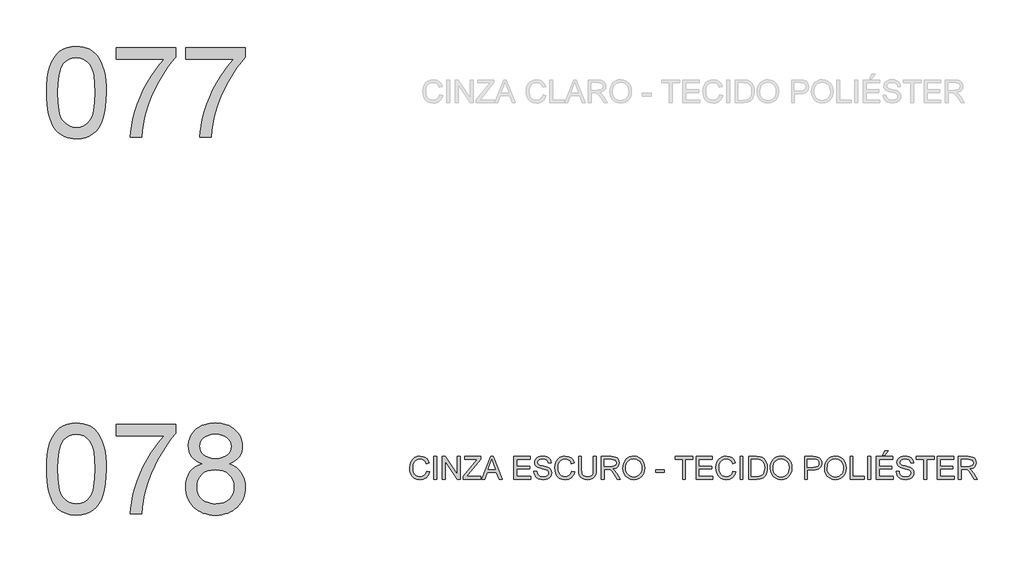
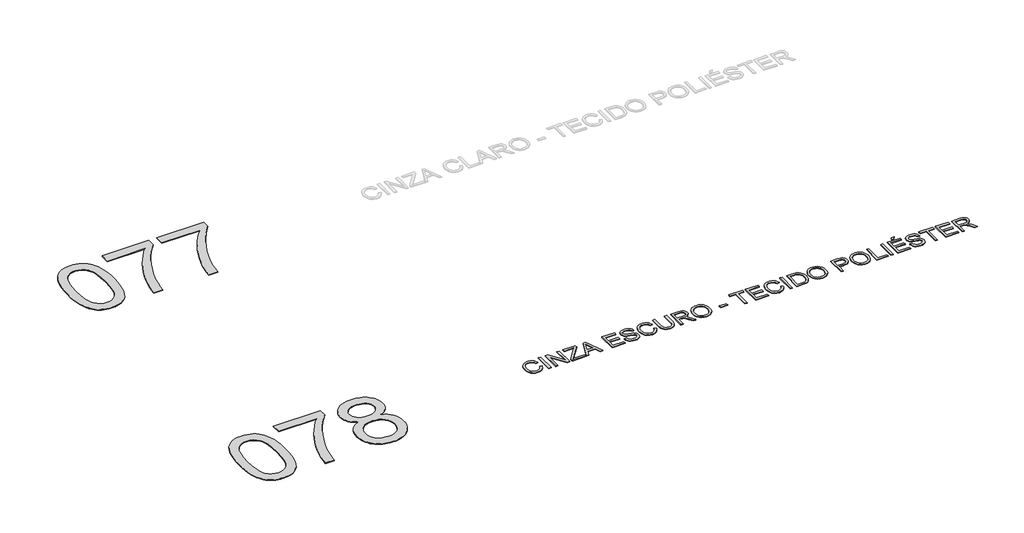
# One storey, part 5 of 39: 3 proxies.
"""IFC4 building model written with IfcOpenShell, lengths in millimetres."""

from ifc_helpers import new_model, si_unit, origin, origin_with_axes, place, context, project, spatial, polyline, outline, extrude, element, save

model = new_model("IFC4")

# Units and contexts
model_context = context("Model", 3, world=origin())
ifc_project = project(units=[si_unit("LENGTHUNIT", "METRE", prefix="MILLI")], contexts=[model_context])

# Site, building, storey
site = spatial("IfcSite", under=ifc_project)
building = spatial("IfcBuilding", under=site)
storey = spatial("IfcBuildingStorey", under=building, Name="Marelli - Linha PROFIT - Planta Baixa", Elevation=0.0)

# Proxies
placement = place(None, origin())
element("IfcBuildingElementProxy", 1, Name="1200mm Arial", ObjectType="1200mm Arial", at=placement, inside=storey, context=model_context, shape_type="SweptSolid", body=[
    extrude(outline(polyline([(-25181.1313792, -129395.792664), (-25178.3630672, -129294.4319773), (-25170.0581311, -129202.8385576), (-25156.2165711, -129121.0124048), (-25136.838387, -129048.953519), (-25112.0063523, -128986.073289), (-25081.8032405, -128931.7831035), (-25046.2290516, -128886.0829627), (-25005.2837855, -128848.9728664), (-24958.8294866, -128820.2596767), (-24906.728199, -128799.7502555), (-24848.9799228, -128787.4446027), (-24785.584658, -128783.3427185), (-24737.9439396, -128785.7707396), (-24692.7312424, -128793.0548031), (-24649.9465664, -128805.194909), (-24609.5899115, -128822.1910572), (-24572.6361651, -128843.7581391), (-24540.0602144, -128869.6110463), (-24511.8620595, -128899.7497788), (-24488.0417003, -128934.1743365), (-24467.4035204, -128972.7467637), (-24448.7519032, -129015.3291046), (-24417.4083572, -129112.5235278), (-24405.4337983, -129169.6831928), (-24396.8805419, -129235.9479371), (-24391.7485881, -129311.3177609), (-24390.0379368, -129395.792664), (-24392.7786576, -129496.5095573), (-24401.0008202, -129587.6431245), (-24414.7044246, -129669.1933658), (-24433.8894706, -129741.1602811), (-24458.5283672, -129804.0681023), (-24488.5935233, -129858.4410612), (-24524.0849388, -129904.2791578), (-24565.0026137, -129941.5823921), (-24611.5120949, -129970.4887199), (-24663.7789294, -129991.1360968), (-24721.8031171, -130003.524523), (-24785.584658, -130007.6539984), (-24828.2589694, -130005.8605737), (-24868.5788361, -130000.4802995), (-24906.544258, -129991.5131759), (-24942.1552351, -129978.9592028), (-24975.4117675, -129962.8183803), (-25006.3138551, -129943.0907083), (-25034.8614979, -129919.7761868), (-25061.054696, -129892.8748159), (-25089.1976686, -129850.2786794), (-25113.5882449, -129802.0999336), (-25134.2264248, -129748.3385785), (-25151.1122084, -129688.9946142), (-25164.2455956, -129624.0680406), (-25173.6265865, -129553.5588577), (-25179.255181, -129477.4670655), (-25181.1313792, -129395.792664)]), holes=[polyline([(-25030.446914, -129395.4983584), (-25026.03233, -129526.4919399), (-25012.7885782, -129632.5247279), (-25002.8557643, -129676.1808245), (-24990.7156585, -129713.5967226), (-24976.3682607, -129744.7724225), (-24959.8135709, -129769.7079239), (-24922.4367602, -129807.884878), (-24880.9396711, -129835.1541309), (-24835.3223037, -129851.5156826), (-24785.584658, -129856.9695332), (-24735.8470122, -129851.4972885), (-24690.2296448, -129835.0805545), (-24648.7325558, -129807.7193311), (-24611.3557451, -129769.4136183), (-24594.8010553, -129744.418336), (-24580.4536575, -129713.2104465), (-24568.3135516, -129675.7899498), (-24558.3807378, -129632.1568459), (-24545.1369859, -129526.2528166), (-24540.722402, -129395.4983584), (-24544.9898331, -129267.9720648), (-24557.7921266, -129163.8062779), (-24567.3938467, -129120.4835744), (-24579.1292823, -129083.0009976), (-24592.9984335, -129051.3585475), (-24609.0013003, -129025.5562241), (-24645.7527116, -128985.5122689), (-24687.7280473, -128956.9094438), (-24734.9273073, -128939.7477487), (-24787.3504916, -128934.0271837), (-24836.8306199, -128939.067167), (-24881.6754351, -128954.187117), (-24921.8849372, -128979.3870337), (-24957.4591261, -129014.666917), (-24974.5656389, -129043.2145599), (-24989.3912833, -129077.2068562), (-25001.9360594, -129116.6438061), (-25012.199967, -129161.5254095), (-25025.8851772, -129267.6225769), (-25030.446914, -129395.4983584)])]), origin_with_axes(), (0.0, 0.0, 1.0), 10.0),
    extrude(outline(polyline([(-24258.1890297, -128952.8627418), (-24258.1890297, -128802.1782766), (-23467.0955873, -128802.1782766), (-23467.0955873, -128924.0207934), (-23523.6114588, -128990.5246611), (-23579.8514188, -129066.7222194), (-23635.8154673, -129152.6134682), (-23691.5036043, -129248.1984076), (-23743.8991975, -129349.3383651), (-23789.9856144, -129451.8946683), (-23829.7628552, -129555.8673172), (-23863.2309197, -129661.2563118), (-23883.1701238, -129737.7941609), (-23899.1362024, -129817.9004653), (-23911.1291555, -129901.5752251), (-23919.1489829, -129988.8184403), (-24069.8334482, -129988.8184403), (-24065.0969675, -129914.8189769), (-24053.5362758, -129833.4986619), (-24035.1513731, -129744.8574952), (-24009.9422594, -129648.8954767), (-23978.2032402, -129550.1651463), (-23940.2286213, -129453.2190435), (-23896.0184025, -129358.0571684), (-23845.5725839, -129264.679521), (-23791.1628368, -129175.8268221), (-23735.0608326, -129094.2397926), (-23677.2665711, -129019.9184325), (-23617.7800525, -128952.8627418), (-24258.1890297, -128952.8627418)])), origin_with_axes(), (0.0, 0.0, 1.0), 10.0),
    extrude(outline(polyline([(-23335.2466802, -128952.8627418), (-23335.2466802, -128802.1782766), (-22544.1532378, -128802.1782766), (-22544.1532378, -128924.0207934), (-22600.6691093, -128990.5246611), (-22656.9090693, -129066.7222194), (-22712.8731178, -129152.6134682), (-22768.5612548, -129248.1984076), (-22820.956848, -129349.3383651), (-22867.0432649, -129451.8946683), (-22906.8205057, -129555.8673172), (-22940.2885702, -129661.2563118), (-22960.2277743, -129737.7941609), (-22976.1938529, -129817.9004653), (-22988.186806, -129901.5752251), (-22996.2066335, -129988.8184403), (-23146.8910987, -129988.8184403), (-23142.154618, -129914.8189769), (-23130.5939263, -129833.4986619), (-23112.2090236, -129744.8574952), (-23086.9999099, -129648.8954767), (-23055.2608907, -129550.1651463), (-23017.2862718, -129453.2190435), (-22973.076053, -129358.0571684), (-22922.6302344, -129264.679521), (-22868.2204873, -129175.8268221), (-22812.1184831, -129094.2397926), (-22754.3242216, -129019.9184325), (-22694.837703, -128952.8627418), (-23335.2466802, -128952.8627418)])), origin_with_axes(), (0.0, 0.0, 1.0), 10.0),
])
element("IfcBuildingElementProxy", 2, Name="1200mm Arial", ObjectType="1200mm Arial", at=placement, inside=storey, context=model_context, shape_type="SweptSolid", body=[
    extrude(outline(polyline([(-25181.1313792, -134395.792664), (-25178.3630672, -134294.4319773), (-25170.0581311, -134202.8385576), (-25156.2165711, -134121.0124048), (-25136.838387, -134048.953519), (-25112.0063523, -133986.073289), (-25081.8032405, -133931.7831035), (-25046.2290516, -133886.0829627), (-25005.2837855, -133848.9728664), (-24958.8294866, -133820.2596767), (-24906.728199, -133799.7502555), (-24848.9799228, -133787.4446027), (-24785.584658, -133783.3427185), (-24737.9439396, -133785.7707396), (-24692.7312424, -133793.0548031), (-24649.9465664, -133805.194909), (-24609.5899115, -133822.1910572), (-24572.6361651, -133843.7581391), (-24540.0602144, -133869.6110463), (-24511.8620595, -133899.7497788), (-24488.0417003, -133934.1743365), (-24467.4035204, -133972.7467637), (-24448.7519032, -134015.3291046), (-24417.4083572, -134112.5235278), (-24405.4337983, -134169.6831928), (-24396.8805419, -134235.9479371), (-24391.7485881, -134311.3177609), (-24390.0379368, -134395.792664), (-24392.7786576, -134496.5095573), (-24401.0008202, -134587.6431245), (-24414.7044246, -134669.1933658), (-24433.8894706, -134741.1602811), (-24458.5283672, -134804.0681023), (-24488.5935233, -134858.4410612), (-24524.0849388, -134904.2791578), (-24565.0026137, -134941.5823921), (-24611.5120949, -134970.4887199), (-24663.7789294, -134991.1360968), (-24721.8031171, -135003.524523), (-24785.584658, -135007.6539984), (-24828.2589694, -135005.8605737), (-24868.5788361, -135000.4802995), (-24906.544258, -134991.5131759), (-24942.1552351, -134978.9592028), (-24975.4117675, -134962.8183803), (-25006.3138551, -134943.0907083), (-25034.8614979, -134919.7761868), (-25061.054696, -134892.8748159), (-25089.1976686, -134850.2786794), (-25113.5882449, -134802.0999336), (-25134.2264248, -134748.3385785), (-25151.1122084, -134688.9946142), (-25164.2455956, -134624.0680406), (-25173.6265865, -134553.5588577), (-25179.255181, -134477.4670655), (-25181.1313792, -134395.792664)]), holes=[polyline([(-25030.446914, -134395.4983584), (-25026.03233, -134526.4919399), (-25012.7885782, -134632.5247279), (-25002.8557643, -134676.1808245), (-24990.7156585, -134713.5967226), (-24976.3682607, -134744.7724225), (-24959.8135709, -134769.7079239), (-24922.4367602, -134807.884878), (-24880.9396711, -134835.1541309), (-24835.3223037, -134851.5156826), (-24785.584658, -134856.9695332), (-24735.8470122, -134851.4972885), (-24690.2296448, -134835.0805545), (-24648.7325558, -134807.7193311), (-24611.3557451, -134769.4136183), (-24594.8010553, -134744.418336), (-24580.4536575, -134713.2104465), (-24568.3135516, -134675.7899498), (-24558.3807378, -134632.1568459), (-24545.1369859, -134526.2528166), (-24540.722402, -134395.4983584), (-24544.9898331, -134267.9720648), (-24557.7921266, -134163.8062779), (-24567.3938467, -134120.4835744), (-24579.1292823, -134083.0009976), (-24592.9984335, -134051.3585475), (-24609.0013003, -134025.5562241), (-24645.7527116, -133985.5122689), (-24687.7280473, -133956.9094438), (-24734.9273073, -133939.7477487), (-24787.3504916, -133934.0271837), (-24836.8306199, -133939.067167), (-24881.6754351, -133954.187117), (-24921.8849372, -133979.3870337), (-24957.4591261, -134014.666917), (-24974.5656389, -134043.2145599), (-24989.3912833, -134077.2068562), (-25001.9360594, -134116.6438061), (-25012.199967, -134161.5254095), (-25025.8851772, -134267.6225769), (-25030.446914, -134395.4983584)])]), origin_with_axes(), (0.0, 0.0, 1.0), 10.0),
    extrude(outline(polyline([(-24258.1890297, -133952.8627418), (-24258.1890297, -133802.1782766), (-23467.0955873, -133802.1782766), (-23467.0955873, -133924.0207934), (-23523.6114588, -133990.5246611), (-23579.8514188, -134066.7222194), (-23635.8154673, -134152.6134682), (-23691.5036043, -134248.1984076), (-23743.8991975, -134349.3383651), (-23789.9856144, -134451.8946683), (-23829.7628552, -134555.8673172), (-23863.2309197, -134661.2563118), (-23883.1701238, -134737.7941609), (-23899.1362024, -134817.9004653), (-23911.1291555, -134901.5752251), (-23919.1489829, -134988.8184403), (-24069.8334482, -134988.8184403), (-24065.0969675, -134914.8189769), (-24053.5362758, -134833.4986619), (-24035.1513731, -134744.8574952), (-24009.9422594, -134648.8954767), (-23978.2032402, -134550.1651463), (-23940.2286213, -134453.2190435), (-23896.0184025, -134358.0571684), (-23845.5725839, -134264.679521), (-23791.1628368, -134175.8268221), (-23735.0608326, -134094.2397926), (-23677.2665711, -134019.9184325), (-23617.7800525, -133952.8627418), (-24258.1890297, -133952.8627418)])), origin_with_axes(), (0.0, 0.0, 1.0), 10.0),
    extrude(outline(polyline([(-23115.6947055, -134324.8650154), (-23159.0404016, -134306.7652212), (-23196.371227, -134285.1337599), (-23227.6871819, -134259.9706314), (-23252.9882661, -134231.2758358), (-23272.4952089, -134199.3252845), (-23286.4287394, -134164.3948891), (-23294.7888578, -134126.4846495), (-23297.5755639, -134085.5945657), (-23291.505511, -134024.1398784), (-23283.9179448, -133995.3301197), (-23273.2953522, -133967.7987509), (-23259.6377331, -133941.545772), (-23242.9450876, -133916.571183), (-23200.4547172, -133870.4571749), (-23175.1674285, -133850.0397242), (-23147.865986, -133832.3446002), (-23118.5503895, -133817.371803), (-23087.2206391, -133805.1213326), (-23018.5186765, -133788.787372), (-22941.7600982, -133783.3427185), (-22864.6336379, -133788.9161307), (-22795.4166405, -133805.6363674), (-22763.7741904, -133818.1765449), (-22734.109106, -133833.5034285), (-22706.4213873, -133851.6170182), (-22680.7110344, -133872.5173141), (-22637.4481118, -133919.5326331), (-22620.4519636, -133944.8613085), (-22606.5460242, -133971.4039944), (-22595.7302935, -133999.1606909), (-22588.0047716, -134028.1313981), (-22583.3694585, -134058.3161158), (-22581.8243541, -134089.7148441), (-22584.574272, -134129.160991), (-22592.8240257, -134165.9767817), (-22606.5736153, -134200.1622161), (-22625.8230407, -134231.7172942), (-22650.6642724, -134260.2189518), (-22681.189281, -134285.2441245), (-22717.3980664, -134306.7928124), (-22759.2906286, -134324.8650154), (-22709.764515, -134345.9354566), (-22666.5475776, -134372.6528865), (-22629.6398164, -134405.0173051), (-22599.0412315, -134443.0287122), (-22575.0277342, -134485.8409794), (-22557.8752362, -134532.607978), (-22547.5837374, -134583.3297081), (-22544.1532378, -134638.0061697), (-22545.854692, -134676.3670647), (-22550.9590547, -134713.1644613), (-22559.4663258, -134748.3983594), (-22571.3765054, -134782.068759), (-22586.6895935, -134814.1756601), (-22605.40559, -134844.7190628), (-22627.5244949, -134873.6989669), (-22653.0463083, -134901.1153726), (-22681.3456308, -134926.085363), (-22711.797063, -134947.7260214), (-22744.4006048, -134966.0373477), (-22779.1562563, -134981.019342), (-22816.0640175, -134992.6720042), (-22855.1238883, -135000.9953343), (-22896.3358688, -135005.9893324), (-22939.699959, -135007.6539984), (-22983.0640492, -135005.9824346), (-23024.2760297, -135000.9677432), (-23063.3359005, -134992.6099241), (-23100.2436617, -134980.9089774), (-23134.9993132, -134965.864903), (-23167.602855, -134947.4777011), (-23198.0542872, -134925.7473715), (-23226.3536096, -134900.6739142), (-23251.875423, -134873.1034579), (-23273.994328, -134843.8821312), (-23292.7103245, -134813.009934), (-23308.0234126, -134780.4868664), (-23319.9335922, -134746.3129283), (-23328.4408633, -134710.4881198), (-23333.545226, -134673.0124408), (-23335.2466802, -134633.8858913), (-23331.6782249, -134576.7170293), (-23320.9728588, -134524.4042096), (-23303.130582, -134476.9474322), (-23278.1513946, -134434.3466971), (-23246.5871194, -134397.3745566), (-23208.9895795, -134366.8035628), (-23165.3587748, -134342.6337157), (-23115.6947055, -134324.8650154)]), holes=[polyline([(-23146.8910987, -134090.0091496), (-23143.5525696, -134124.553269), (-23133.5369822, -134155.7864504), (-23116.8443367, -134183.7086938), (-23093.474633, -134208.3199993), (-23063.7221766, -134228.4063562), (-23027.8812732, -134242.753754), (-22985.9519228, -134251.3621927), (-22937.9341254, -134254.2316723), (-22891.1027474, -134251.3805868), (-22850.083905, -134242.8273304), (-22814.877598, -134228.5719031), (-22785.4838266, -134208.6143049), (-22762.3072609, -134184.5180342), (-22745.7525711, -134157.8465896), (-22735.8197573, -134128.5999709), (-22732.5088193, -134096.7781784), (-22735.9301219, -134063.714784), (-22746.1940295, -134033.3921106), (-22763.3005423, -134005.810158), (-22787.2496602, -133980.9689263), (-22817.3056192, -133960.4319139), (-22852.7326553, -133945.7626193), (-22893.5307686, -133936.9610426), (-22939.699959, -133934.0271837), (-22986.2278343, -133936.8966633), (-23027.2190856, -133945.5051019), (-23062.6737129, -133959.8524998), (-23092.5917162, -133979.9388567), (-23116.347696, -134004.0351274), (-23133.3162531, -134030.4122664), (-23143.4973873, -134059.0702739), (-23146.8910987, -134090.0091496)]), polyline([(-23184.562215, -134628.5883906), (-23182.9895195, -134657.6418712), (-23178.2714329, -134686.2354992), (-23159.3990865, -134742.0431979), (-23144.3986982, -134767.9328933), (-23124.5606616, -134790.7139859), (-23099.8849767, -134810.3864756), (-23070.3716437, -134826.9503624), (-23038.1819691, -134840.0837496), (-23005.4772597, -134849.4647405), (-22972.2575156, -134855.093335), (-22938.5227366, -134856.9695332), (-22884.0394131, -134853.0239988), (-22835.9572364, -134841.1873956), (-22794.2762063, -134821.4597236), (-22758.996323, -134793.8409828), (-22730.9269267, -134760.133795), (-22710.877358, -134722.140782), (-22698.8476167, -134679.8619437), (-22694.837703, -134633.2972801), (-22698.9763754, -134585.9876555), (-22711.3923928, -134542.9454621), (-22732.085755, -134504.1706998), (-22761.0564621, -134469.6633687), (-22797.2928387, -134441.336455), (-22839.7832091, -134421.1029453), (-22888.5275735, -134408.9628395), (-22943.5259317, -134404.9161375), (-22997.2091119, -134408.9076572), (-23044.6566922, -134420.8822161), (-23085.8686727, -134440.8398143), (-23120.8450534, -134468.7804519), (-23148.7213116, -134502.7175659), (-23168.6329246, -134540.6645937), (-23180.5798924, -134582.6215353), (-23184.562215, -134628.5883906)])]), origin_with_axes(), (0.0, 0.0, 1.0), 10.0),
])
element("IfcBuildingElementProxy", 3, Name="300mm Arial", ObjectType="300mm Arial", at=placement, inside=storey, context=model_context, shape_type="SweptSolid", body=[
    extrude(outline(polyline([(-20136.8172734, -134423.4390831), (-20099.1461571, -134433.1511677), (-20106.600366, -134456.5783531), (-20116.5285814, -134477.0486868), (-20128.9308031, -134494.5621691), (-20143.8070313, -134509.1187997), (-20160.8215736, -134520.5622291), (-20179.6387376, -134528.7361071), (-20200.2585235, -134533.640434), (-20222.6809311, -134535.2752096), (-20266.3761151, -134530.3271968), (-20301.0765843, -134515.4831583), (-20327.6744525, -134491.2581289), (-20347.0618337, -134458.1671434), (-20358.8984368, -134419.2636224), (-20362.8439712, -134377.6009865), (-20358.3834021, -134333.6574821), (-20345.0016945, -134295.7104543), (-20323.3978243, -134264.9647166), (-20294.2707673, -134242.6250824), (-20259.726648, -134229.0226457), (-20221.8715907, -134224.4885001), (-20180.5676397, -134230.3562179), (-20162.5989035, -134237.6908652), (-20146.4189935, -134247.9593714), (-20132.2946241, -134260.8904235), (-20120.4925099, -134276.2127086), (-20103.8550466, -134314.0309777), (-20141.5261629, -134323.0072984), (-20154.5859738, -134295.5357104), (-20172.4282505, -134276.6909552), (-20195.2737224, -134265.7924511), (-20223.3431187, -134262.1596164), (-20255.6983401, -134266.1879242), (-20282.2778143, -134278.2728478), (-20302.4469447, -134297.1451941), (-20315.5711349, -134321.5357704), (-20322.7724249, -134349.1085259), (-20325.1728549, -134377.5274101), (-20322.3309665, -134412.3290468), (-20313.8053013, -134442.421794), (-20299.2739625, -134466.6560205), (-20278.4150534, -134483.8820949), (-20253.4082747, -134494.1735937), (-20226.4333274, -134497.6040933), (-20194.9886139, -134492.931992), (-20168.7862188, -134478.9156879), (-20149.0033645, -134455.702334), (-20136.8172734, -134423.4390831)])), origin_with_axes(), (0.0, 0.0, 1.0), 10.0),
    extrude(outline(polyline([(-20042.6394826, -134530.5663201), (-20042.6394826, -134229.1973896), (-20004.9683663, -134229.1973896), (-20004.9683663, -134530.5663201), (-20042.6394826, -134530.5663201)])), origin_with_axes(), (0.0, 0.0, 1.0), 10.0),
    extrude(outline(polyline([(-19929.6261337, -134530.5663201), (-19929.6261337, -134229.1973896), (-19889.3062671, -134229.1973896), (-19731.8527731, -134467.9528045), (-19731.8527731, -134229.1973896), (-19694.1816568, -134229.1973896), (-19694.1816568, -134530.5663201), (-19734.5015235, -134530.5663201), (-19891.9550174, -134291.7373288), (-19891.9550174, -134530.5663201), (-19929.6261337, -134530.5663201)])), origin_with_axes(), (0.0, 0.0, 1.0), 10.0),
    extrude(outline(polyline([(-19651.801651, -134530.5663201), (-19651.801651, -134491.4972522), (-19497.659095, -134302.7737887), (-19468.3756882, -134266.8685059), (-19632.9660928, -134266.8685059), (-19632.9660928, -134229.1973896), (-19421.0660636, -134229.1973896), (-19421.0660636, -134266.8685059), (-19589.7767466, -134473.397458), (-19605.6692488, -134492.8952038), (-19416.3571741, -134492.8952038), (-19416.3571741, -134530.5663201), (-19651.801651, -134530.5663201)])), origin_with_axes(), (0.0, 0.0, 1.0), 10.0),
    extrude(outline(polyline([(-19409.0731105, -134530.5663201), (-19288.7756981, -134229.1973896), (-19256.6963881, -134229.1973896), (-19136.3989757, -134530.5663201), (-19176.2038076, -134530.5663201), (-19210.7111388, -134436.3885293), (-19334.8345239, -134436.3885293), (-19369.2682787, -134530.5663201), (-19409.0731105, -134530.5663201)]), holes=[polyline([(-19321.0021609, -134398.717413), (-19224.4699254, -134398.717413), (-19251.6196166, -134324.6259792), (-19272.7360431, -134266.8685059), (-19291.4980249, -134318.1512561), (-19321.0021609, -134398.717413)])]), origin_with_axes(), (0.0, 0.0, 1.0), 10.0),
    extrude(outline(polyline([(-18978.430447, -134530.5663201), (-18978.430447, -134229.1973896), (-18761.8215282, -134229.1973896), (-18761.8215282, -134266.8685059), (-18940.7593307, -134266.8685059), (-18940.7593307, -134356.3374072), (-18771.2393073, -134356.3374072), (-18771.2393073, -134394.0085235), (-18940.7593307, -134394.0085235), (-18940.7593307, -134492.8952038), (-18757.1126387, -134492.8952038), (-18757.1126387, -134530.5663201), (-18978.430447, -134530.5663201)])), origin_with_axes(), (0.0, 0.0, 1.0), 10.0),
    extrude(outline(polyline([(-18714.7326329, -134426.9707502), (-18677.0615165, -134426.9707502), (-18672.7389031, -134447.8756446), (-18664.9214107, -134464.6786547), (-18652.7261226, -134478.0143771), (-18635.2701219, -134488.517408), (-18613.9329662, -134495.332422), (-18590.0942129, -134497.6040933), (-18569.1065451, -134495.884245), (-18550.7308394, -134490.7247), (-18535.8408156, -134482.5577197), (-18525.3101935, -134471.8155654), (-18519.0470026, -134459.4823215), (-18516.9592722, -134446.5420724), (-18518.5227707, -134433.932917), (-18523.2132662, -134423.0344129), (-18532.7414098, -134413.7361954), (-18548.817853, -134405.9279001), (-18603.6690585, -134391.5437141), (-18639.6755088, -134382.0247675), (-18662.7141187, -134372.9656733), (-18681.4669034, -134360.2921386), (-18694.7566405, -134344.9330653), (-18702.6753005, -134327.2195472), (-18705.3148538, -134307.4826782), (-18702.0499011, -134285.4189555), (-18692.2550429, -134264.845155), (-18676.1877968, -134247.4075484), (-18654.10568, -134234.7524077), (-18627.5997823, -134227.054477), (-18598.2611932, -134224.4885001), (-18566.4761888, -134227.1740386), (-18538.66431, -134235.2306543), (-18515.8188381, -134248.4928003), (-18498.9330545, -134266.7949295), (-18488.2460825, -134288.9966079), (-18483.9970455, -134313.9574013), (-18521.6681618, -134313.9574013), (-18528.5843433, -134291.4798114), (-18543.0053175, -134275.2562154), (-18565.5380897, -134265.4337661), (-18596.7896652, -134262.1596164), (-18628.7770047, -134265.3969779), (-18650.7211657, -134275.1090626), (-18663.4130945, -134289.4012781), (-18667.6437375, -134306.3790322), (-18664.6454992, -134320.8551887), (-18655.6507844, -134332.4986539), (-18634.3872051, -134342.9097143), (-18594.1409148, -134353.541504), (-18552.6070376, -134363.6398648), (-18527.4806973, -134372.4506385), (-18506.0055858, -134386.1174547), (-18491.0235916, -134402.9848441), (-18482.2220149, -134422.868866), (-18479.2881559, -134445.5855792), (-18482.6634732, -134468.8081301), (-18492.7894252, -134490.6511236), (-18509.2521444, -134509.4498935), (-18531.6377639, -134523.539774), (-18558.5575289, -134532.3413507), (-18588.6226849, -134535.2752096), (-18625.5304461, -134532.1114244), (-18655.9083018, -134522.620069), (-18680.1057401, -134506.764355), (-18698.4722487, -134484.5074943), (-18710.2628666, -134457.3945912), (-18714.7326329, -134426.9707502)])), origin_with_axes(), (0.0, 0.0, 1.0), 10.0),
    extrude(outline(polyline([(-18210.8814523, -134423.4390831), (-18173.210336, -134433.1511677), (-18180.6645449, -134456.5783531), (-18190.5927602, -134477.0486868), (-18202.994982, -134494.5621691), (-18217.8712102, -134509.1187997), (-18234.8857524, -134520.5622291), (-18253.7029165, -134528.7361071), (-18274.3227023, -134533.640434), (-18296.7451099, -134535.2752096), (-18340.4402939, -134530.3271968), (-18375.1407631, -134515.4831583), (-18401.7386314, -134491.2581289), (-18421.1260125, -134458.1671434), (-18432.9626157, -134419.2636224), (-18436.9081501, -134377.6009865), (-18432.4475809, -134333.6574821), (-18419.0658733, -134295.7104543), (-18397.4620032, -134264.9647166), (-18368.3349462, -134242.6250824), (-18333.7908268, -134229.0226457), (-18295.9357695, -134224.4885001), (-18254.6318185, -134230.3562179), (-18236.6630823, -134237.6908652), (-18220.4831723, -134247.9593714), (-18206.358803, -134260.8904235), (-18194.5566887, -134276.2127086), (-18177.9192255, -134314.0309777), (-18215.5903418, -134323.0072984), (-18228.6501526, -134295.5357104), (-18246.4924294, -134276.6909552), (-18269.3379013, -134265.7924511), (-18297.4072975, -134262.1596164), (-18329.762519, -134266.1879242), (-18356.3419932, -134278.2728478), (-18376.5111235, -134297.1451941), (-18389.6353137, -134321.5357704), (-18396.8366038, -134349.1085259), (-18399.2370338, -134377.5274101), (-18396.3951454, -134412.3290468), (-18387.8694801, -134442.421794), (-18373.3381413, -134466.6560205), (-18352.4792322, -134483.8820949), (-18327.4724536, -134494.1735937), (-18300.4975063, -134497.6040933), (-18269.0527927, -134492.931992), (-18242.8503976, -134478.9156879), (-18223.0675433, -134455.702334), (-18210.8814523, -134423.4390831)])), origin_with_axes(), (0.0, 0.0, 1.0), 10.0),
    extrude(outline(polyline([(-17923.6391904, -134229.1973896), (-17885.9680741, -134229.1973896), (-17885.9680741, -134403.0584205), (-17888.524854, -134443.7737604), (-17896.1951936, -134475.1265034), (-17910.5241973, -134499.3147446), (-17933.0569695, -134518.5365788), (-17963.8486925, -134531.0905519), (-18002.9545486, -134535.2752096), (-18041.205079, -134531.6331779), (-18071.7852699, -134520.7070826), (-18094.7043182, -134502.8740029), (-18109.971421, -134478.5110178), (-18118.5522685, -134445.8338995), (-18121.412551, -134403.0584205), (-18121.412551, -134229.1973896), (-18083.7414347, -134229.1973896), (-18083.7414347, -134401.7340454), (-18081.8836306, -134435.588386), (-18076.3102184, -134459.1604248), (-18066.2118577, -134475.4851883), (-18050.779208, -134487.597703), (-18030.6560628, -134495.1024957), (-18006.4862157, -134497.6040933), (-17968.1713059, -134492.6560805), (-17953.8285067, -134486.4710644), (-17942.6954778, -134477.812042), (-17934.3583521, -134465.6351479), (-17928.4032623, -134448.8965171), (-17923.6391904, -134401.7340454), (-17923.6391904, -134229.1973896)])), origin_with_axes(), (0.0, 0.0, 1.0), 10.0),
    extrude(outline(polyline([(-17820.0436206, -134530.5663201), (-17820.0436206, -134229.1973896), (-17690.1812763, -134229.1973896), (-17655.278472, -134231.2299376), (-17629.8854173, -134237.3275817), (-17611.3257706, -134248.5847708), (-17596.9231905, -134266.0959537), (-17587.6801554, -134287.8101885), (-17584.5991437, -134311.6765329), (-17589.7035064, -134341.3646099), (-17605.0165944, -134365.9759154), (-17616.6163736, -134376.0052983), (-17630.9982603, -134384.0205273), (-17668.1083566, -134394.0085235), (-17646.6976245, -134410.1217548), (-17616.1634189, -134448.8965171), (-17565.9107383, -134530.5663201), (-17609.6886957, -134530.5663201), (-17648.9049164, -134468.0999573), (-17677.2318301, -134426.750021), (-17697.134246, -134407.2154871), (-17715.0500992, -134400.0417882), (-17736.9022897, -134398.717413), (-17782.3725043, -134398.717413), (-17782.3725043, -134530.5663201), (-17820.0436206, -134530.5663201)]), holes=[polyline([(-17782.3725043, -134361.0462967), (-17698.053951, -134361.0462967), (-17673.8381186, -134359.7127245), (-17655.0485457, -134355.7120078), (-17640.903483, -134348.7774322), (-17630.6211813, -134338.6422832), (-17624.3579903, -134326.3826157), (-17622.27026, -134313.0744845), (-17626.2525826, -134294.6987789), (-17638.1995504, -134279.8915286), (-17658.7549568, -134270.1242616), (-17688.5625955, -134266.8685059), (-17782.3725043, -134266.8685059), (-17782.3725043, -134361.0462967)])]), origin_with_axes(), (0.0, 0.0, 1.0), 10.0),
    extrude(outline(polyline([(-17532.8013587, -134383.8549804), (-17530.2905641, -134348.5061192), (-17522.7581803, -134317.213157), (-17510.2042072, -134289.9760937), (-17492.6286449, -134266.7949295), (-17471.0845555, -134248.2858666), (-17446.6250014, -134235.0651074), (-17419.2499824, -134227.1326519), (-17388.9594986, -134224.4885001), (-17349.4305783, -134229.454907), (-17313.985148, -134244.3541278), (-17284.5545884, -134268.1376988), (-17263.0702799, -134299.7571563), (-17249.9368927, -134337.68579), (-17245.5590969, -134380.3968896), (-17250.1668189, -134423.6782064), (-17263.9899849, -134462.140269), (-17286.2652397, -134493.8149087), (-17316.2292282, -134516.733957), (-17351.3711558, -134530.6398965), (-17389.1802278, -134535.2752096), (-17429.3161535, -134530.1524528), (-17464.9639188, -134514.7841825), (-17494.3209021, -134490.5591531), (-17515.5844814, -134458.8661192), (-17528.4971394, -134422.3998164), (-17532.8013587, -134383.8549804)]), holes=[polyline([(-17495.1302424, -134384.2228624), (-17493.2471465, -134409.1974513), (-17487.5978586, -134431.3669401), (-17478.1823788, -134450.7313286), (-17465.000707, -134467.2906169), (-17448.9771469, -134480.5527628), (-17431.0360018, -134490.0257242), (-17411.1772719, -134495.709501), (-17389.400957, -134497.6040933), (-17367.2521617, -134495.6911069), (-17347.1589069, -134489.9521478), (-17329.1211929, -134480.3872159), (-17313.1390194, -134466.9963113), (-17300.0539167, -134450.0875351), (-17290.7074148, -134429.9689885), (-17285.0995136, -134406.6406715), (-17283.2302132, -134380.102584), (-17286.4307866, -134346.7540812), (-17296.0325067, -134317.9305269), (-17311.7870531, -134294.358488), (-17333.4461056, -134276.7645316), (-17359.5749243, -134265.8108452), (-17388.7387694, -134262.1596164), (-17409.7586269, -134263.9185522), (-17429.2609712, -134269.1953595), (-17447.2458022, -134277.9900385), (-17463.7131201, -134290.302589), (-17477.4581111, -134306.7262208), (-17487.2759618, -134327.8541437), (-17493.1666723, -134353.6863575), (-17495.1302424, -134384.2228624)])]), origin_with_axes(), (0.0, 0.0, 1.0), 10.0),
    extrude(outline(polyline([(-17099.5835212, -134441.0974188), (-17099.5835212, -134403.4263025), (-16981.8612828, -134403.4263025), (-16981.8612828, -134441.0974188), (-17099.5835212, -134441.0974188)])), origin_with_axes(), (0.0, 0.0, 1.0), 10.0),
    extrude(outline(polyline([(-16741.7079163, -134530.5663201), (-16741.7079163, -134266.8685059), (-16840.5945966, -134266.8685059), (-16840.5945966, -134229.1973896), (-16605.1501197, -134229.1973896), (-16605.1501197, -134266.8685059), (-16704.0368, -134266.8685059), (-16704.0368, -134530.5663201), (-16741.7079163, -134530.5663201)])), origin_with_axes(), (0.0, 0.0, 1.0), 10.0),
    extrude(outline(polyline([(-16562.7701139, -134530.5663201), (-16562.7701139, -134229.1973896), (-16346.1611951, -134229.1973896), (-16346.1611951, -134266.8685059), (-16525.0989976, -134266.8685059), (-16525.0989976, -134356.3374072), (-16355.5789742, -134356.3374072), (-16355.5789742, -134394.0085235), (-16525.0989976, -134394.0085235), (-16525.0989976, -134492.8952038), (-16341.4523056, -134492.8952038), (-16341.4523056, -134530.5663201), (-16562.7701139, -134530.5663201)])), origin_with_axes(), (0.0, 0.0, 1.0), 10.0),
    extrude(outline(polyline([(-16073.0456019, -134423.4390831), (-16035.3744856, -134433.1511677), (-16042.8286945, -134456.5783531), (-16052.7569099, -134477.0486868), (-16065.1591316, -134494.5621691), (-16080.0353598, -134509.1187997), (-16097.0499021, -134520.5622291), (-16115.8670661, -134528.7361071), (-16136.486852, -134533.640434), (-16158.9092596, -134535.2752096), (-16202.6044435, -134530.3271968), (-16237.3049127, -134515.4831583), (-16263.902781, -134491.2581289), (-16283.2901621, -134458.1671434), (-16295.1267653, -134419.2636224), (-16299.0722997, -134377.6009865), (-16294.6117305, -134333.6574821), (-16281.230023, -134295.7104543), (-16259.6261528, -134264.9647166), (-16230.4990958, -134242.6250824), (-16195.9549765, -134229.0226457), (-16158.0999192, -134224.4885001), (-16116.7959682, -134230.3562179), (-16098.827232, -134237.6908652), (-16082.647322, -134247.9593714), (-16068.5229526, -134260.8904235), (-16056.7208384, -134276.2127086), (-16040.0833751, -134314.0309777), (-16077.7544914, -134323.0072984), (-16090.8143023, -134295.5357104), (-16108.656579, -134276.6909552), (-16131.5020509, -134265.7924511), (-16159.5714472, -134262.1596164), (-16191.9266686, -134266.1879242), (-16218.5061428, -134278.2728478), (-16238.6752732, -134297.1451941), (-16251.7994633, -134321.5357704), (-16259.0007534, -134349.1085259), (-16261.4011834, -134377.5274101), (-16258.559295, -134412.3290468), (-16250.0336298, -134442.421794), (-16235.502291, -134466.6560205), (-16214.6433818, -134483.8820949), (-16189.6366032, -134494.1735937), (-16162.6616559, -134497.6040933), (-16131.2169424, -134492.931992), (-16105.0145473, -134478.9156879), (-16085.231693, -134455.702334), (-16073.0456019, -134423.4390831)])), origin_with_axes(), (0.0, 0.0, 1.0), 10.0),
    extrude(outline(polyline([(-15978.8678111, -134530.5663201), (-15978.8678111, -134229.1973896), (-15941.1966948, -134229.1973896), (-15941.1966948, -134530.5663201), (-15978.8678111, -134530.5663201)])), origin_with_axes(), (0.0, 0.0, 1.0), 10.0),
    extrude(outline(polyline([(-15865.8544622, -134530.5663201), (-15865.8544622, -134229.1973896), (-15761.8910104, -134229.1973896), (-15708.1066627, -134233.5383972), (-15684.0839684, -134241.9077126), (-15663.8136705, -134255.0962821), (-15642.9731554, -134278.0521186), (-15628.1291169, -134306.5997614), (-15619.2447667, -134340.1873876), (-15616.2833167, -134378.2631741), (-15618.2882735, -134410.6091985), (-15624.3031442, -134439.0740679), (-15633.4634059, -134463.3082943), (-15644.9045359, -134482.9623899), (-15658.0747113, -134498.477813), (-15672.4221091, -134510.2960221), (-15688.8940255, -134519.0608107), (-15708.4377565, -134525.4159721), (-15756.8878152, -134530.5663201), (-15865.8544622, -134530.5663201)]), holes=[polyline([(-15828.1833459, -134492.8952038), (-15761.5231284, -134492.8952038), (-15733.9503728, -134491.5340404), (-15713.0362814, -134487.4505502), (-15697.2541438, -134480.8838566), (-15685.0772498, -134472.0730828), (-15671.9898478, -134455.7667134), (-15662.1582015, -134434.6594839), (-15656.0053751, -134408.6594239), (-15653.954433, -134377.6745629), (-15657.9735438, -134336.6189322), (-15670.0308762, -134306.3054558), (-15687.8455618, -134285.4833349), (-15709.1367323, -134272.9017706), (-15730.8049818, -134268.3768221), (-15762.553198, -134266.8685059), (-15828.1833459, -134266.8685059), (-15828.1833459, -134492.8952038)])]), origin_with_axes(), (0.0, 0.0, 1.0), 10.0),
    extrude(outline(polyline([(-15578.6122004, -134383.8549804), (-15576.1014058, -134348.5061192), (-15568.5690219, -134317.213157), (-15556.0150488, -134289.9760937), (-15538.4394865, -134266.7949295), (-15516.8953972, -134248.2858666), (-15492.435843, -134235.0651074), (-15465.060824, -134227.1326519), (-15434.7703403, -134224.4885001), (-15395.2414199, -134229.454907), (-15359.7959896, -134244.3541278), (-15330.36543, -134268.1376988), (-15308.8811215, -134299.7571563), (-15295.7477343, -134337.68579), (-15291.3699385, -134380.3968896), (-15295.9776605, -134423.6782064), (-15309.8008265, -134462.140269), (-15332.0760813, -134493.8149087), (-15362.0400698, -134516.733957), (-15397.1819974, -134530.6398965), (-15434.9910695, -134535.2752096), (-15475.1269951, -134530.1524528), (-15510.7747605, -134514.7841825), (-15540.1317437, -134490.5591531), (-15561.395323, -134458.8661192), (-15574.307981, -134422.3998164), (-15578.6122004, -134383.8549804)]), holes=[polyline([(-15540.9410841, -134384.2228624), (-15539.0579881, -134409.1974513), (-15533.4087002, -134431.3669401), (-15523.9932204, -134450.7313286), (-15510.8115487, -134467.2906169), (-15494.7879885, -134480.5527628), (-15476.8468435, -134490.0257242), (-15456.9881135, -134495.709501), (-15435.2117986, -134497.6040933), (-15413.0630033, -134495.6911069), (-15392.9697486, -134489.9521478), (-15374.9320345, -134480.3872159), (-15358.949861, -134466.9963113), (-15345.8647583, -134450.0875351), (-15336.5182564, -134429.9689885), (-15330.9103552, -134406.6406715), (-15329.0410548, -134380.102584), (-15332.2416282, -134346.7540812), (-15341.8433483, -134317.9305269), (-15357.5978947, -134294.358488), (-15379.2569472, -134276.7645316), (-15405.3857659, -134265.8108452), (-15434.5496111, -134262.1596164), (-15455.5694686, -134263.9185522), (-15475.0718128, -134269.1953595), (-15493.0566439, -134277.9900385), (-15509.5239617, -134290.302589), (-15523.2689527, -134306.7262208), (-15533.0868035, -134327.8541437), (-15538.9775139, -134353.6863575), (-15540.9410841, -134384.2228624)])]), origin_with_axes(), (0.0, 0.0, 1.0), 10.0),
    extrude(outline(polyline([(-15121.8499152, -134530.5663201), (-15121.8499152, -134229.1973896), (-15010.1609414, -134229.1973896), (-14965.1321852, -134232.0668692), (-14945.0550253, -134237.4287493), (-14928.5279267, -134246.1567496), (-14915.2197955, -134258.6463433), (-14904.799538, -134275.2930036), (-14898.0672975, -134294.9287051), (-14895.8232173, -134316.3854225), (-14897.3384313, -134334.8852883), (-14901.8840732, -134351.9044291), (-14909.460143, -134367.4428449), (-14920.0666408, -134381.5005356), (-14934.62787, -134393.1531978), (-14954.0681342, -134401.476528), (-14978.3874334, -134406.470526), (-15007.5857675, -134408.1351921), (-15084.1787989, -134408.1351921), (-15084.1787989, -134530.5663201), (-15121.8499152, -134530.5663201)]), holes=[polyline([(-15084.1787989, -134370.4640758), (-15005.3784755, -134370.4640758), (-14971.9747903, -134367.005985), (-14949.9018706, -134356.6317127), (-14937.5962179, -134339.9850525), (-14933.4943336, -134317.7097977), (-14935.9131577, -134300.7872259), (-14943.1696301, -134286.5134045), (-14954.3624398, -134275.7712502), (-14968.590276, -134269.4436799), (-15006.2613923, -134266.8685059), (-15084.1787989, -134266.8685059), (-15084.1787989, -134370.4640758)])]), origin_with_axes(), (0.0, 0.0, 1.0), 10.0),
    extrude(outline(polyline([(-14858.152101, -134383.8549804), (-14855.6413064, -134348.5061192), (-14848.1089225, -134317.213157), (-14835.5549495, -134289.9760937), (-14817.9793871, -134266.7949295), (-14796.4352978, -134248.2858666), (-14771.9757436, -134235.0651074), (-14744.6007247, -134227.1326519), (-14714.3102409, -134224.4885001), (-14674.7813205, -134229.454907), (-14639.3358903, -134244.3541278), (-14609.9053307, -134268.1376988), (-14588.4210222, -134299.7571563), (-14575.2876349, -134337.68579), (-14570.9098392, -134380.3968896), (-14575.5175612, -134423.6782064), (-14589.3407271, -134462.140269), (-14611.6159819, -134493.8149087), (-14641.5799705, -134516.733957), (-14676.721898, -134530.6398965), (-14714.5309701, -134535.2752096), (-14754.6668958, -134530.1524528), (-14790.3146611, -134514.7841825), (-14819.6716443, -134490.5591531), (-14840.9352236, -134458.8661192), (-14853.8478817, -134422.3998164), (-14858.152101, -134383.8549804)]), holes=[polyline([(-14820.4809847, -134384.2228624), (-14818.5978887, -134409.1974513), (-14812.9486009, -134431.3669401), (-14803.533121, -134450.7313286), (-14790.3514493, -134467.2906169), (-14774.3278892, -134480.5527628), (-14756.3867441, -134490.0257242), (-14736.5280141, -134495.709501), (-14714.7516993, -134497.6040933), (-14692.6029039, -134495.6911069), (-14672.5096492, -134489.9521478), (-14654.4719351, -134480.3872159), (-14638.4897617, -134466.9963113), (-14625.404659, -134450.0875351), (-14616.058157, -134429.9689885), (-14610.4502559, -134406.6406715), (-14608.5809555, -134380.102584), (-14611.7815288, -134346.7540812), (-14621.3832489, -134317.9305269), (-14637.1377954, -134294.358488), (-14658.7968478, -134276.7645316), (-14684.9256665, -134265.8108452), (-14714.0895117, -134262.1596164), (-14735.1093692, -134263.9185522), (-14754.6117135, -134269.1953595), (-14772.5965445, -134277.9900385), (-14789.0638623, -134290.302589), (-14802.8088534, -134306.7262208), (-14812.6267041, -134327.8541437), (-14818.5174146, -134353.6863575), (-14820.4809847, -134384.2228624)])]), origin_with_axes(), (0.0, 0.0, 1.0), 10.0),
    extrude(outline(polyline([(-14519.1120543, -134530.5663201), (-14519.1120543, -134229.1973896), (-14481.440938, -134229.1973896), (-14481.440938, -134492.8952038), (-14330.7564727, -134492.8952038), (-14330.7564727, -134530.5663201), (-14519.1120543, -134530.5663201)])), origin_with_axes(), (0.0, 0.0, 1.0), 10.0),
    extrude(outline(polyline([(-14283.6675773, -134530.5663201), (-14283.6675773, -134229.1973896), (-14245.996461, -134229.1973896), (-14245.996461, -134530.5663201), (-14283.6675773, -134530.5663201)])), origin_with_axes(), (0.0, 0.0, 1.0), 10.0),
    extrude(outline(polyline([(-14170.6542284, -134530.5663201), (-14170.6542284, -134229.1973896), (-13954.0453097, -134229.1973896), (-13954.0453097, -134266.8685059), (-14132.9831121, -134266.8685059), (-14132.9831121, -134356.3374072), (-13963.4630887, -134356.3374072), (-13963.4630887, -134394.0085235), (-14132.9831121, -134394.0085235), (-14132.9831121, -134492.8952038), (-13949.3364201, -134492.8952038), (-13949.3364201, -134530.5663201), (-14170.6542284, -134530.5663201)])), origin_with_axes(), (0.0, 0.0, 1.0), 10.0),
    extrude(outline(polyline([(-14085.8942167, -134210.3618315), (-14057.6408795, -134153.855157), (-14010.5519841, -134153.855157), (-14057.6408795, -134210.3618315), (-14085.8942167, -134210.3618315)])), origin_with_axes(), (0.0, 0.0, 1.0), 10.0),
    extrude(outline(polyline([(-13906.9564143, -134426.9707502), (-13869.285298, -134426.9707502), (-13864.9626845, -134447.8756446), (-13857.1451921, -134464.6786547), (-13844.949904, -134478.0143771), (-13827.4939033, -134488.517408), (-13806.1567476, -134495.332422), (-13782.3179943, -134497.6040933), (-13761.3303265, -134495.884245), (-13742.9546208, -134490.7247), (-13728.0645971, -134482.5577197), (-13717.533975, -134471.8155654), (-13711.270784, -134459.4823215), (-13709.1830537, -134446.5420724), (-13710.7465522, -134433.932917), (-13715.4370476, -134423.0344129), (-13724.9651913, -134413.7361954), (-13741.0416345, -134405.9279001), (-13795.8928399, -134391.5437141), (-13831.8992902, -134382.0247675), (-13854.9379002, -134372.9656733), (-13873.6906849, -134360.2921386), (-13886.9804219, -134344.9330653), (-13894.8990819, -134327.2195472), (-13897.5386352, -134307.4826782), (-13894.2736825, -134285.4189555), (-13884.4788244, -134264.845155), (-13868.4115782, -134247.4075484), (-13846.3294615, -134234.7524077), (-13819.8235637, -134227.054477), (-13790.4849746, -134224.4885001), (-13758.6999702, -134227.1740386), (-13730.8880914, -134235.2306543), (-13708.0426195, -134248.4928003), (-13691.1568359, -134266.7949295), (-13680.469864, -134288.9966079), (-13676.2208269, -134313.9574013), (-13713.8919432, -134313.9574013), (-13720.8081247, -134291.4798114), (-13735.2290989, -134275.2562154), (-13757.7618711, -134265.4337661), (-13789.0134466, -134262.1596164), (-13821.0007861, -134265.3969779), (-13842.9449471, -134275.1090626), (-13855.636876, -134289.4012781), (-13859.8675189, -134306.3790322), (-13856.8692806, -134320.8551887), (-13847.8745659, -134332.4986539), (-13826.6109865, -134342.9097143), (-13786.3646963, -134353.541504), (-13744.830819, -134363.6398648), (-13719.7044787, -134372.4506385), (-13698.2293673, -134386.1174547), (-13683.247373, -134402.9848441), (-13674.4457963, -134422.868866), (-13671.5119374, -134445.5855792), (-13674.8872547, -134468.8081301), (-13685.0132066, -134490.6511236), (-13701.4759259, -134509.4498935), (-13723.8615453, -134523.539774), (-13750.7813103, -134532.3413507), (-13780.8464663, -134535.2752096), (-13817.7542275, -134532.1114244), (-13848.1320833, -134522.620069), (-13872.3295215, -134506.764355), (-13890.6960301, -134484.5074943), (-13902.486648, -134457.3945912), (-13906.9564143, -134426.9707502)])), origin_with_axes(), (0.0, 0.0, 1.0), 10.0),
    extrude(outline(polyline([(-13539.6630303, -134530.5663201), (-13539.6630303, -134266.8685059), (-13638.5497106, -134266.8685059), (-13638.5497106, -134229.1973896), (-13403.1052337, -134229.1973896), (-13403.1052337, -134266.8685059), (-13501.991914, -134266.8685059), (-13501.991914, -134530.5663201), (-13539.6630303, -134530.5663201)])), origin_with_axes(), (0.0, 0.0, 1.0), 10.0),
    extrude(outline(polyline([(-13360.7252278, -134530.5663201), (-13360.7252278, -134229.1973896), (-13144.1163091, -134229.1973896), (-13144.1163091, -134266.8685059), (-13323.0541115, -134266.8685059), (-13323.0541115, -134356.3374072), (-13153.5340882, -134356.3374072), (-13153.5340882, -134394.0085235), (-13323.0541115, -134394.0085235), (-13323.0541115, -134492.8952038), (-13139.4074195, -134492.8952038), (-13139.4074195, -134530.5663201), (-13360.7252278, -134530.5663201)])), origin_with_axes(), (0.0, 0.0, 1.0), 10.0),
    extrude(outline(polyline([(-13082.9007451, -134530.5663201), (-13082.9007451, -134229.1973896), (-12953.0384008, -134229.1973896), (-12918.1355965, -134231.2299376), (-12892.7425418, -134237.3275817), (-12874.1828951, -134248.5847708), (-12859.780315, -134266.0959537), (-12850.5372799, -134287.8101885), (-12847.4562682, -134311.6765329), (-12852.5606309, -134341.3646099), (-12867.8737189, -134365.9759154), (-12879.4734981, -134376.0052983), (-12893.8553848, -134384.0205273), (-12930.9654811, -134394.0085235), (-12909.554749, -134410.1217548), (-12879.0205434, -134448.8965171), (-12828.7678628, -134530.5663201), (-12872.5458202, -134530.5663201), (-12911.7620409, -134468.0999573), (-12940.0889546, -134426.750021), (-12959.9913705, -134407.2154871), (-12977.9072237, -134400.0417882), (-12999.7594142, -134398.717413), (-13045.2296288, -134398.717413), (-13045.2296288, -134530.5663201), (-13082.9007451, -134530.5663201)]), holes=[polyline([(-13045.2296288, -134361.0462967), (-12960.9110755, -134361.0462967), (-12936.6952432, -134359.7127245), (-12917.9056703, -134355.7120078), (-12903.7606075, -134348.7774322), (-12893.4783058, -134338.6422832), (-12887.2151148, -134326.3826157), (-12885.1273845, -134313.0744845), (-12889.1097071, -134294.6987789), (-12901.0566749, -134279.8915286), (-12921.6120814, -134270.1242616), (-12951.41972, -134266.8685059), (-13045.2296288, -134266.8685059), (-13045.2296288, -134361.0462967)])]), origin_with_axes(), (0.0, 0.0, 1.0), 10.0),
])

save(model, "model.ifc")
